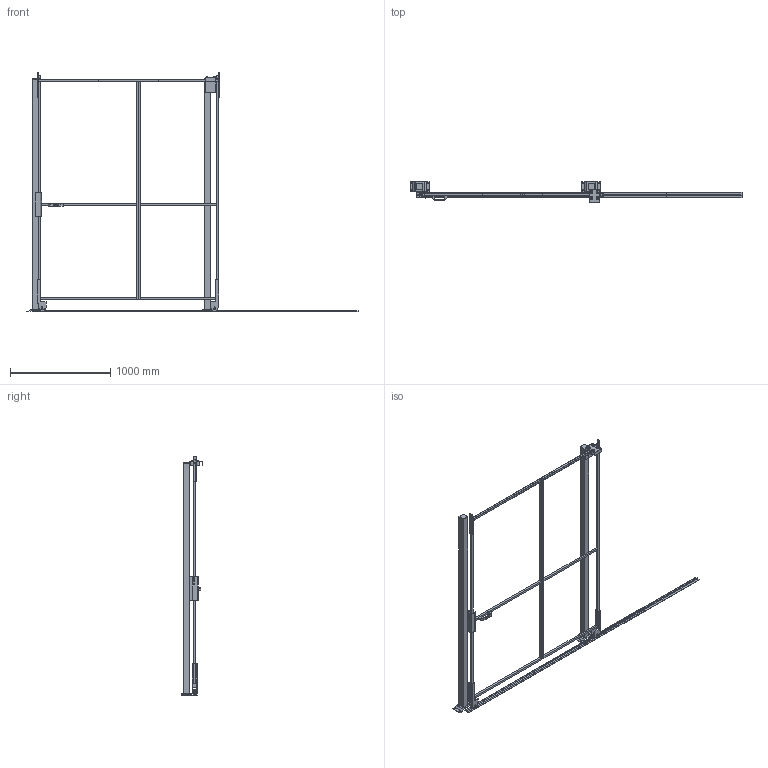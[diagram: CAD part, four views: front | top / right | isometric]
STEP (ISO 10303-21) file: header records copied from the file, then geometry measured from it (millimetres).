
FILE_DESCRIPTION(/* description */ (''),/* implementation_level */ '2;1');
FILE_NAME(/* name */ 'C:\SafeGuarding\ELABORATI\Drawing5_2025-04-02-12-06-03.stp',/* time_stamp */ '2025-04-02T12:06:05+02:00',/* author */ ('admin'),/* organization */ (''),/* preprocessor_version */ 'ST-DEVELOPER v18.1',/* originating_system */ 'AutoCAD Mechanical',/* authorisation */ '');
FILE_SCHEMA (('AUTOMOTIVE_DESIGN { 1 0 10303 214 3 1 1 }'));
Length unit declared in the file: millimetre
Products named in the file (4): Product; R_VFPA.REPE20.08002200; R_VFPA.REPE20.10002200; P_VFMA.V260SDU.2320
Assembly tree (4 placements, depth 2):
  Product
    R_VFPA.REPE20.08002200
    R_VFPA.REPE20.10002200
    P_VFMA.V260SDU.2320  x2
Bounding box: 3311.45 x 210 x 2390 mm (x, y, z)
Volume: 24694082.1 mm3; surface area: 3736520.1 mm2
Topology: 40 solids, 51 shells, 387 faces, 1223 edges, 1217 vertices
Faces by surface type: plane 341, cylinder 40, cone 4, sphere 2
Full cylindrical faces by diameter (mm): 9 x4, 11 x8, 13 x4, 18 x4, 30 x2, 36 x4, 58 x4
Entity records: 12770 total; most frequent: CARTESIAN_POINT 2777, DIRECTION 1939, ORIENTED_EDGE 1742, EDGE_CURVE 920, LINE 905, VECTOR 905, VERTEX_POINT 654, AXIS2_PLACEMENT_3D 517
